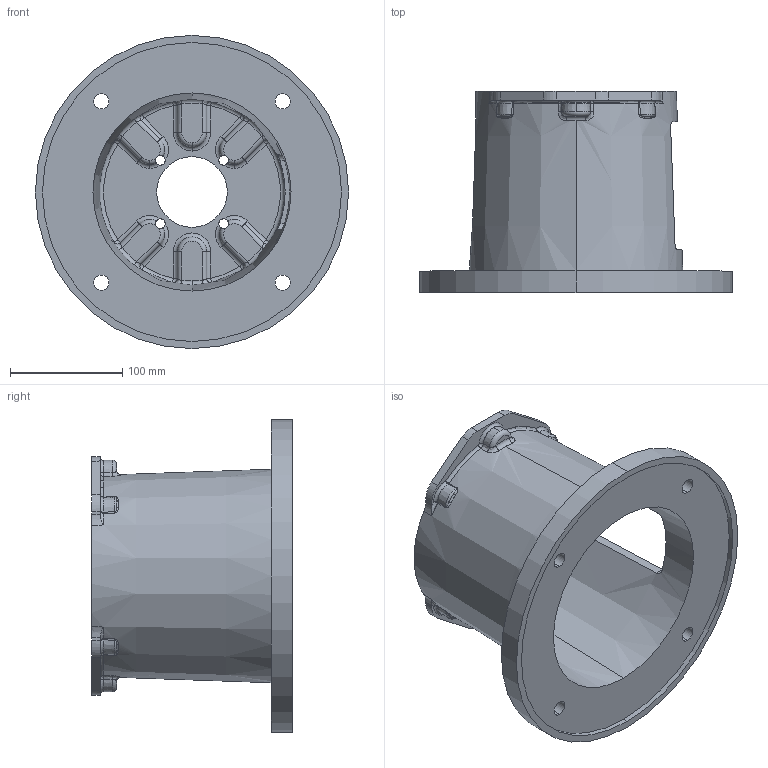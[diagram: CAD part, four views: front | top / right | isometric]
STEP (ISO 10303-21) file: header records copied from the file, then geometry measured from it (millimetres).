
FILE_DESCRIPTION (( 'STEP AP203' ), '1' );
FILE_NAME ('M2846863MS.STEP', '2015-01-19T16:30:07', ( '' ), ( '' ), 'SwSTEP 2.0', 'SolidWorks 2014', '' );
FILE_SCHEMA (( 'CONFIG_CONTROL_DESIGN' ));
Length unit declared in the file: inch
Products named in the file (1): M2846863MS
Bounding box: 279.4 x 179.32 x 279.4 mm (x, y, z)
Volume: 1430298.5 mm3; surface area: 316697.8 mm2
Topology: 1 solids, 1 shells, 346 faces, 884 edges, 519 vertices
Faces by surface type: torus 109, cylinder 82, bspline 64, plane 45, sphere 24, cone 22
Entity records: 14337 total; most frequent: CARTESIAN_POINT 6384, ORIENTED_EDGE 1728, DIRECTION 1650, EDGE_CURVE 864, AXIS2_PLACEMENT_3D 747, VERTEX_POINT 519, CIRCLE 464, EDGE_LOOP 365
